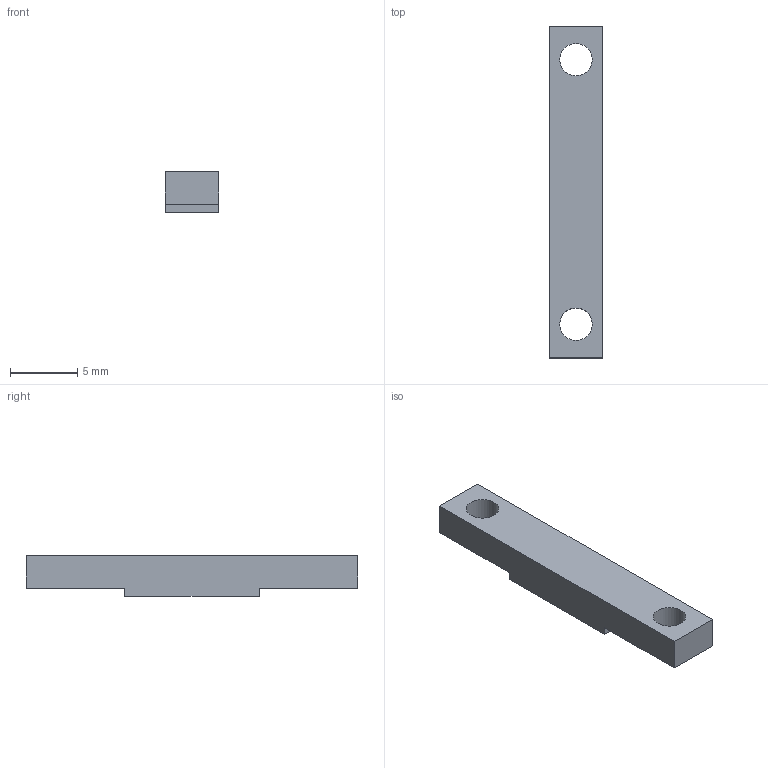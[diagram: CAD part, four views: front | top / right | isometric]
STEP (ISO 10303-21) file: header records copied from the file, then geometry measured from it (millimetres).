
FILE_DESCRIPTION(('Open CASCADE Model'),'2;1');
FILE_NAME('Open CASCADE Shape Model','2026-10-20T15:49:48',('Author'),( 'Open CASCADE'),'Open CASCADE STEP processor 7.8','Open CASCADE 7.8' ,'Unknown');
FILE_SCHEMA(('AUTOMOTIVE_DESIGN { 1 0 10303 214 1 1 1 1 }'));
Length unit declared in the file: millimetre
Products named in the file (1): Open CASCADE STEP translator 7.8 19
Bounding box: 4 x 24.6 x 3 mm (x, y, z)
Volume: 238.4 mm3; surface area: 369 mm2
Topology: 1 solids, 1 shells, 12 faces, 30 edges, 20 vertices
Faces by surface type: plane 10, cylinder 2
Full cylindrical faces by diameter (mm): 2.4 x2
Entity records: 774 total; most frequent: CARTESIAN_POINT 151, DIRECTION 112, LINE 78, VECTOR 78, ORIENTED_EDGE 60, PCURVE 60, DEFINITIONAL_REPRESENTATION 60, EDGE_CURVE 30
